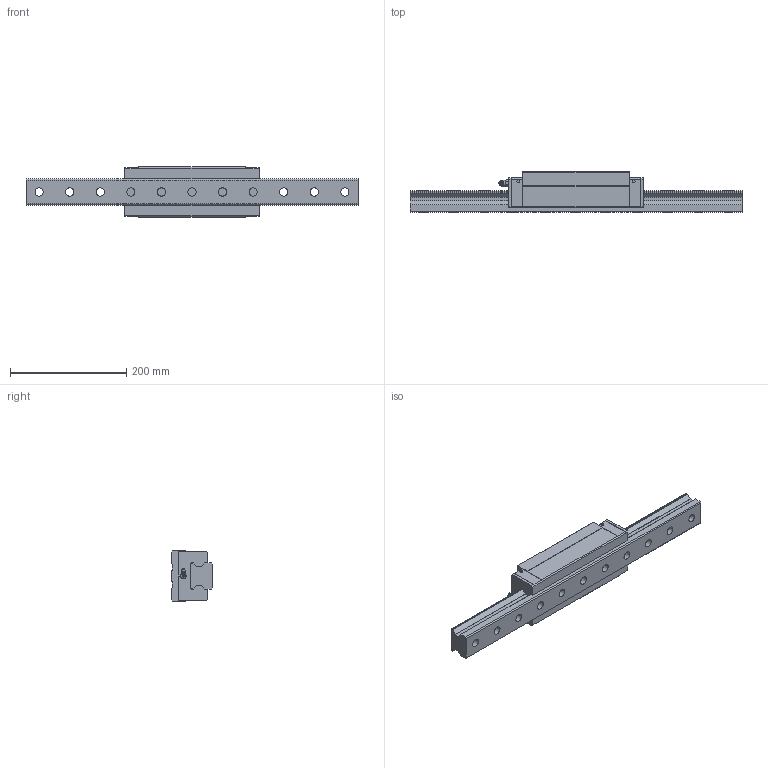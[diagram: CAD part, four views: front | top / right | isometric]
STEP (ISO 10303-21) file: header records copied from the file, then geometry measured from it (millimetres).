
FILE_DESCRIPTION(/* description */ ('STEP AP203'),/* implementation_level */ '2;1');
FILE_NAME(/* name */ 'SRG45SLR1SS-570LH_G22-5_0_B-PT18_169-25_0_0_0_1',/* time_stamp */ '2024-05-23T10:23:22+02:00',/* author */ ('License CC BY-ND 4.0'),/* organization */ ('CADENAS'),/* preprocessor_version */ 'ST-DEVELOPER v19.3',/* originating_system */ 'PARTsolutions',/* authorisation */ ' ');
FILE_SCHEMA (('CONFIG_CONTROL_DESIGN'));
Length unit declared in the file: millimetre
Products named in the file (4): SRG45SLR1SS-570LH_G22-5_0_B-PT18_169-25_0_0_0_1; SRG45SLR57022.5 Track; SRG45SLRSSB-PT1/81 Slide25-55; SRG-B-PT1/8_grease_nipple_joint
Assembly tree (3 placements, depth 2):
  SRG45SLR1SS-570LH_G22-5_0_B-PT18_169-25_0_0_0_1
    SRG45SLR57022.5 Track
    SRG45SLRSSB-PT1/81 Slide25-55
    SRG-B-PT1/8_grease_nipple_joint
Bounding box: 570 x 70 x 86 mm (x, y, z)
Volume: 1653959.6 mm3; surface area: 216832.6 mm2
Topology: 3 solids, 3 shells, 213 faces, 530 edges, 344 vertices
Faces by surface type: plane 130, cylinder 50, cone 28, torus 3, sphere 2
Full cylindrical faces by diameter (mm): 5.2 x4, 8.376 x9, 9.6 x1, 10.2 x2, 14 x11, 20 x11
Entity records: 6054 total; most frequent: CARTESIAN_POINT 1127, DIRECTION 980, ORIENTED_EDGE 888, EDGE_CURVE 444, AXIS2_PLACEMENT_3D 346, VERTEX_POINT 338, FACE_BOUND 336, EDGE_LOOP 327
